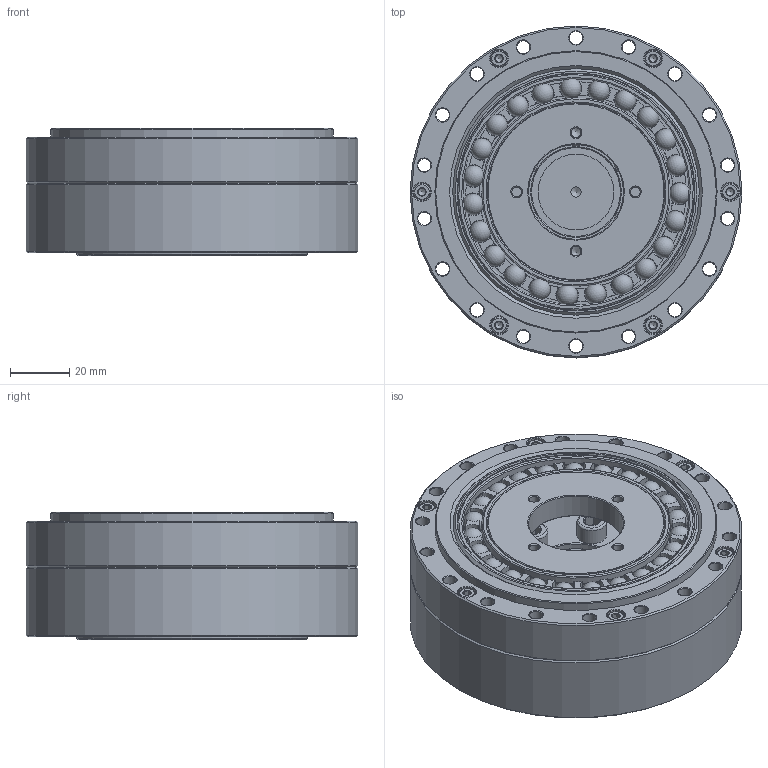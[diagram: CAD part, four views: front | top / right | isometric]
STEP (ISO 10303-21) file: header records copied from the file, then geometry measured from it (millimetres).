
FILE_DESCRIPTION(/* description */ (''),/* implementation_level */ '2;1');
FILE_NAME(/* name */ 'LSD-32-XX-U-I-φ32(无键).stp',/* time_stamp */ '2023-07-04T09:04:30+08:00',/* author */ (''),/* organization */ (''),/* preprocessor_version */ 'ST-DEVELOPER v16.7',/* originating_system */ 'SIEMENS PLM Software NX 12.0',/* authorisation */ '');
FILE_SCHEMA (('AUTOMOTIVE_DESIGN { 1 0 10303 214 3 1 1 1 }'));
Length unit declared in the file: millimetre
Products named in the file (12): EB608012-32KC-46; EB608012-32KD-01; TC-78x92x5; O-93x1.5; 发生器LSD-32-φ32无键; GB-T70.1-2000,M3x16; GB-T70.1-2000,M6x12; 柔轮LSD-32; 刚轮LSD-32; EB608012-32KD; 交叉轴承LSD-32; LSD-32-XX-U-I-φ32(无键)
Assembly tree (21 placements, depth 3):
  LSD-32-XX-U-I-φ32(无键)
    交叉轴承LSD-32
      TC-78x92x5
    刚轮LSD-32
    柔轮LSD-32
    EB608012-32KD
      EB608012-32KD-01
      EB608012-32KC-46
    GB-T70.1-2000,M6x12  x6
    GB-T70.1-2000,M3x16  x6
    发生器LSD-32-φ32无键
    O-93x1.5
Bounding box: 112 x 112 x 43 mm (x, y, z)
Volume: 281936.2 mm3; surface area: 135904.3 mm2
Topology: 45 solids, 45 shells, 860 faces, 1950 edges, 1173 vertices
Faces by surface type: cone 276, plane 273, cylinder 193, torus 94, sphere 23, revolution 1
Full cylindrical faces by diameter (mm): 2.5 x6, 2.874 x6, 3.3 x4, 3.5 x6, 4.5 x36, 5 x6, 5.5 x6, 5.795 x6, 6 x6, 6.5 x6, 6.8 x10, 10 x6, 25.6 x1, 30 x2, 30.6 x1, 32 x2, 32.6 x1, 50 x1, 59 x1, 60 x2, 63.5 x1, 63.6 x2, 65.5 x1, 69 x1, 72.529 x1, 74.3 x1, 76.45 x2, 77.4 x1, 78 x2, 78.5 x2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
Entity records: 16578 total; most frequent: CARTESIAN_POINT 3963, DIRECTION 2735, ORIENTED_EDGE 1848, AXIS2_PLACEMENT_3D 1303, EDGE_LOOP 1056, FACE_BOUND 930, EDGE_CURVE 924, VERTEX_POINT 800
